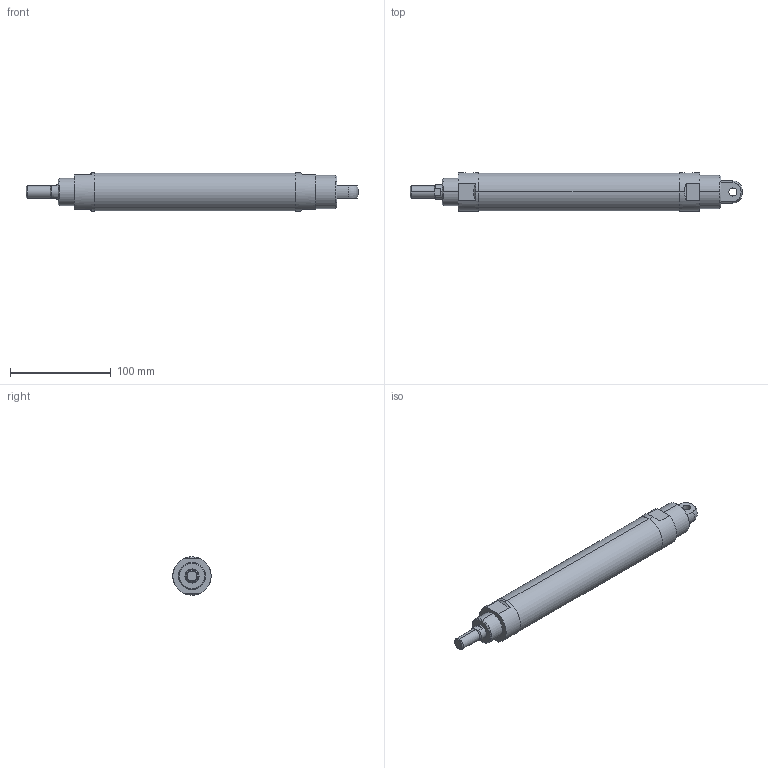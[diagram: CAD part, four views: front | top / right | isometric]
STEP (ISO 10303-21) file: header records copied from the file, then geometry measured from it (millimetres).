
FILE_DESCRIPTION (( 'STEP AP203' ), '1' );
FILE_NAME ('J#2-32-150-C.STEP', '2016-03-08T07:40:54', ( '' ), ( '' ), 'SwSTEP 2.0', 'SolidWorks 2014', '' );
FILE_SCHEMA (( 'CONFIG_CONTROL_DESIGN' ));
Length unit declared in the file: millimetre
Products named in the file (1): J#2-32-150-C
Bounding box: 329 x 38 x 38 mm (x, y, z)
Volume: 297246.1 mm3; surface area: 37680.5 mm2
Topology: 1 solids, 1 shells, 59 faces, 138 edges, 85 vertices
Faces by surface type: cylinder 22, plane 20, cone 15, torus 2
Entity records: 1996 total; most frequent: CARTESIAN_POINT 574, DIRECTION 293, ORIENTED_EDGE 268, EDGE_CURVE 134, AXIS2_PLACEMENT_3D 118, VERTEX_POINT 85, EDGE_LOOP 69, ADVANCED_FACE 59
